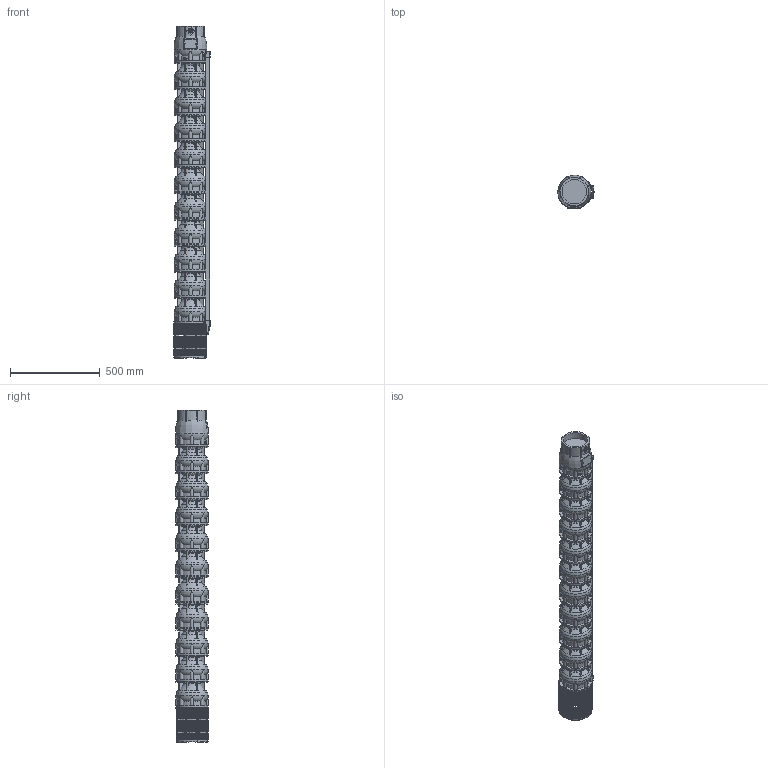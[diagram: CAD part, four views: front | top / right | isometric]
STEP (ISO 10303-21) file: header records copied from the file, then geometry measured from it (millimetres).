
FILE_DESCRIPTION(/* description */ ('Unknown'),/* implementation_level */ '2;1');
FILE_NAME(/* name */ 'VSI134-10_WR_M8-50_DLE',/* time_stamp */ '2023-09-14T13:20:19+02:00',/* author */ ('Unknown'),/* organization */ ('Unknown'),/* preprocessor_version */ 'ST-DEVELOPER v18.102',/* originating_system */ 'Solid Edge',/* authorisation */ 'Unknown');
FILE_SCHEMA (('TECHNICAL_DATA_PACKAGING','PROCESS_PLANNING_SCHEMA','AUTOMOTIVE_DESIGN {1 0 10303 214 3 1 1}'));
Products named in the file (11): VSI134-10_WR_M8-50_DLE; VSI134_testata; VSI134_diffusore; VSI134_supporto_8×8; VSI134_filtro_A; VSI134_filtro_B; VSI134_terminale_top_copricavo_basso; VSI134_terminale_bottom_copricavo_basso; LOW 134-10; M5X8_UNI7687; VSI134_giunto_8×8
Assembly tree (28 placements, depth 2):
  VSI134-10_WR_M8-50_DLE
    VSI134_testata
    VSI134_diffusore  x10
    VSI134_supporto_8×8
    VSI134_filtro_A
    VSI134_filtro_B
    VSI134_terminale_top_copricavo_basso
    VSI134_terminale_bottom_copricavo_basso
    LOW 134-10
    M5X8_UNI7687  x10
    VSI134_giunto_8×8
Bounding box: 201.57 x 183.52 x 1847 mm (x, y, z)
Volume: 33261231.2 mm3; surface area: 2498026 mm2
Topology: 67 solids, 69 shells, 4165 faces, 11769 edges, 7854 vertices
Faces by surface type: plane 3030, cylinder 547, torus 484, cone 61, bspline 31, sphere 12
Full cylindrical faces by diameter (mm): 2.4 x2, 3 x2, 4.2 x16, 5 x10, 5.5 x8, 26 x1, 44 x1, 69 x1, 74 x1, 98 x1, 135.472 x1, 157 x1, 182 x11
Entity records: 85537 total; most frequent: CARTESIAN_POINT 18361, ORIENTED_EDGE 14056, DIRECTION 13486, EDGE_CURVE 7028, VERTEX_POINT 4730, AXIS2_PLACEMENT_3D 4594, LINE 4298, VECTOR 4298
